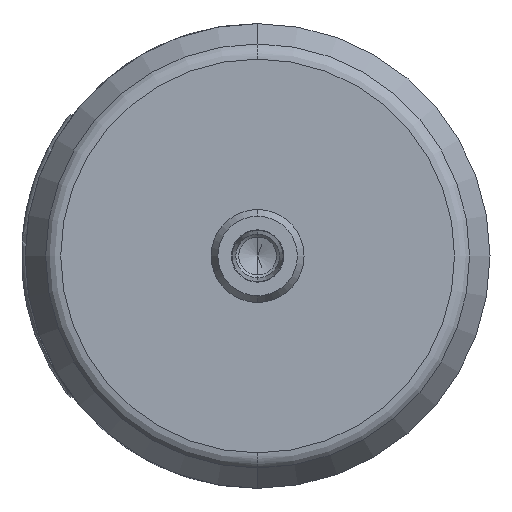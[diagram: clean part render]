
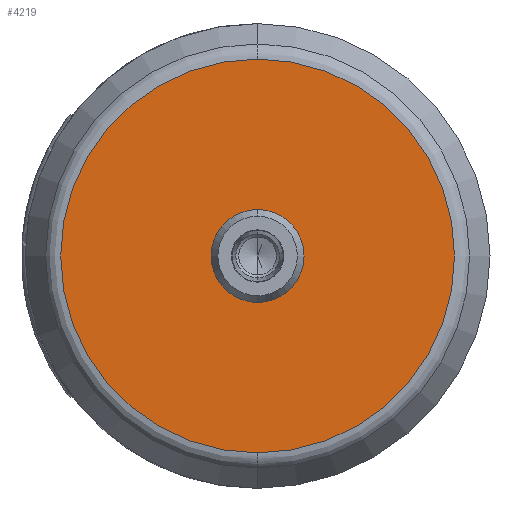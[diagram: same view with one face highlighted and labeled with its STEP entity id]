
A CAD part, front view. The second image highlights one B-rep face of the part: STEP entity #4219.
In plain terms, the highlighted planar face has unit normal (0, -1, 0).
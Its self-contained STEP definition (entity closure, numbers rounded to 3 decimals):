
#93 = EDGE_LOOP ( 'NONE', ( #1054, #1878 ) ) ;
#158 = DIRECTION ( 'NONE',  ( 0., 0., -1. ) ) ;
#214 = PLANE ( 'NONE',  #752 ) ;
#388 = DIRECTION ( 'NONE',  ( 0., 0., 1. ) ) ;
#401 = EDGE_CURVE ( 'NONE', #3663, #4946, #1898, .T. ) ;
#515 = CIRCLE ( 'NONE', #4313, 7.75 ) ;
#595 = AXIS2_PLACEMENT_3D ( 'NONE', #2372, #5476, #4185 ) ;
#752 = AXIS2_PLACEMENT_3D ( 'NONE', #5471, #2827, #158 ) ;
#879 = CARTESIAN_POINT ( 'NONE',  ( 0., 0., 7.75 ) ) ;
#899 = DIRECTION ( 'NONE',  ( 0., 0., 1. ) ) ;
#1054 = ORIENTED_EDGE ( 'NONE', *, *, #1478, .T. ) ;
#1302 = DIRECTION ( 'NONE',  ( 0., 1., 0. ) ) ;
#1478 = EDGE_CURVE ( 'NONE', #3383, #2171, #4199, .T. ) ;
#1713 = ORIENTED_EDGE ( 'NONE', *, *, #401, .F. ) ;
#1878 = ORIENTED_EDGE ( 'NONE', *, *, #3365, .T. ) ;
#1898 = CIRCLE ( 'NONE', #5174, 33.892 ) ;
#2163 = CARTESIAN_POINT ( 'NONE',  ( 0., 0., 0. ) ) ;
#2171 = VERTEX_POINT ( 'NONE', #2665 ) ;
#2227 = CARTESIAN_POINT ( 'NONE',  ( 0., 0., 33.892 ) ) ;
#2372 = CARTESIAN_POINT ( 'NONE',  ( 0., 0., 0. ) ) ;
#2390 = DIRECTION ( 'NONE',  ( 0., 0., 1. ) ) ;
#2653 = EDGE_CURVE ( 'NONE', #4946, #3663, #4732, .T. ) ;
#2665 = CARTESIAN_POINT ( 'NONE',  ( 0., 0., -7.75 ) ) ;
#2827 = DIRECTION ( 'NONE',  ( 0., -1., 0. ) ) ;
#3044 = FACE_OUTER_BOUND ( 'NONE', #5491, .T. ) ;
#3142 = CARTESIAN_POINT ( 'NONE',  ( 0., 0., 0. ) ) ;
#3365 = EDGE_CURVE ( 'NONE', #2171, #3383, #515, .T. ) ;
#3383 = VERTEX_POINT ( 'NONE', #879 ) ;
#3646 = CARTESIAN_POINT ( 'NONE',  ( 0., 0., -33.892 ) ) ;
#3663 = VERTEX_POINT ( 'NONE', #2227 ) ;
#3760 = DIRECTION ( 'NONE',  ( 0., 1., 0. ) ) ;
#3771 = AXIS2_PLACEMENT_3D ( 'NONE', #2163, #3978, #388 ) ;
#3978 = DIRECTION ( 'NONE',  ( 0., 1., 0. ) ) ;
#4185 = DIRECTION ( 'NONE',  ( 0., 0., 1. ) ) ;
#4199 = CIRCLE ( 'NONE', #595, 7.75 ) ;
#4214 = ORIENTED_EDGE ( 'NONE', *, *, #2653, .F. ) ;
#4219 = ADVANCED_FACE ( 'NONE', ( #5580, #3044 ), #214, .T. ) ;
#4313 = AXIS2_PLACEMENT_3D ( 'NONE', #3142, #1302, #899 ) ;
#4732 = CIRCLE ( 'NONE', #3771, 33.892 ) ;
#4946 = VERTEX_POINT ( 'NONE', #3646 ) ;
#5071 = CARTESIAN_POINT ( 'NONE',  ( 0., 0., 0. ) ) ;
#5174 = AXIS2_PLACEMENT_3D ( 'NONE', #5071, #3760, #2390 ) ;
#5471 = CARTESIAN_POINT ( 'NONE',  ( 0., 0., 0. ) ) ;
#5476 = DIRECTION ( 'NONE',  ( 0., 1., 0. ) ) ;
#5491 = EDGE_LOOP ( 'NONE', ( #1713, #4214 ) ) ;
#5580 = FACE_BOUND ( 'NONE', #93, .T. ) ;
